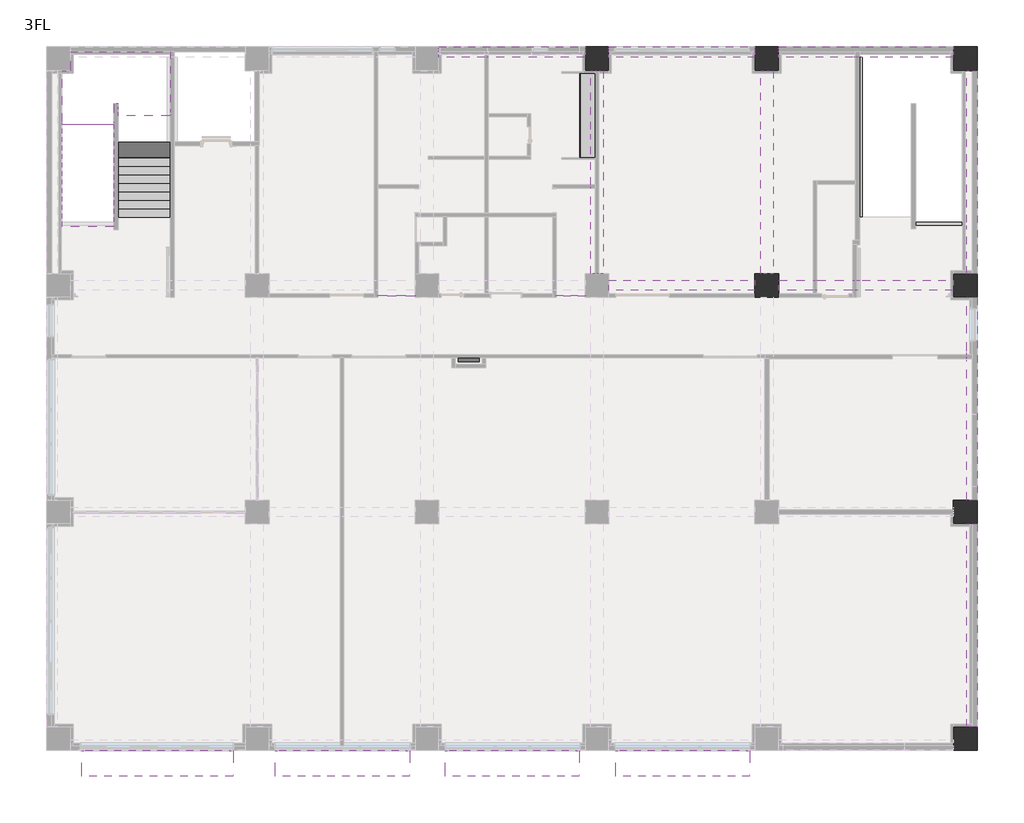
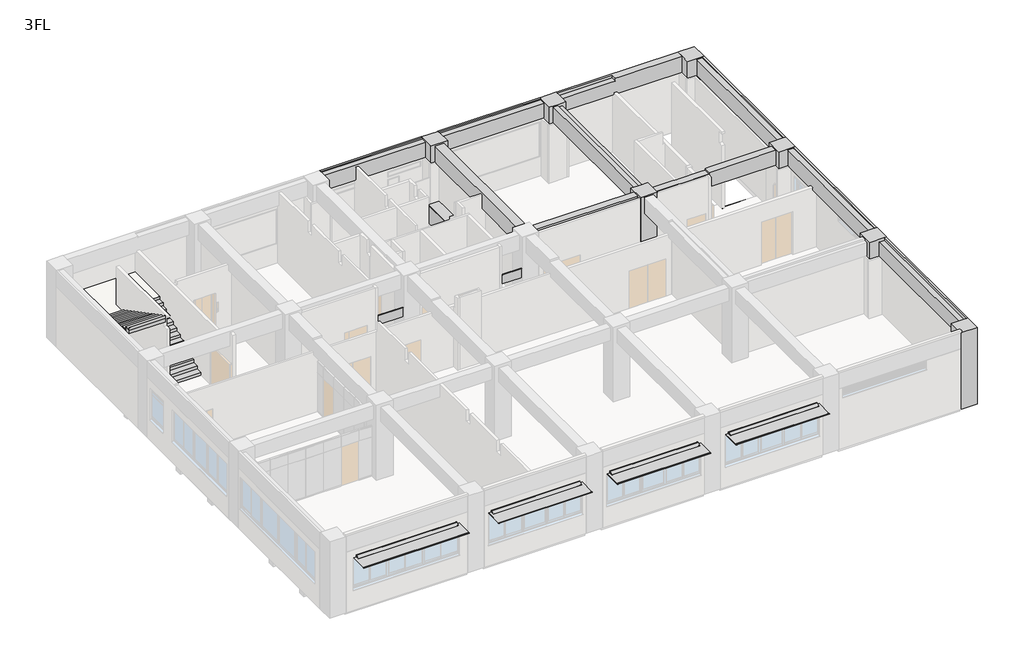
# One storey, part 6 of 6: 15 beams, 7 columns, 7 proxies, 2 stair flights, 1 flow terminal, 1 slab.
"""IFC4 building model written with IfcOpenShell, lengths in millimetres."""

from ifc_helpers import new_model, si_unit, frame, origin, place, context, project, spatial, polyline, outline, extrude, faceted_brep, transform, mapped, element, save
from components import generic_models_889831fe, generic_models_706210b3, specialty_equipment_ac76b24c, generic_models_8fc78ecc, generic_models_3a1368d3, flow_terminal_46fab2b1

model = new_model("IFC4")

# Units and contexts
model_context = context("Model", 3, world=origin())
ifc_project = project(units=[si_unit("LENGTHUNIT", "METRE", prefix="MILLI")], contexts=[model_context])

# Site, building, storey
site = spatial("IfcSite", under=ifc_project)
building = spatial("IfcBuilding", under=site)
storey = spatial("IfcBuildingStorey", under=building, Name="3FL", Elevation=8200.0)

# Beams
placement = place(None, origin())
element("IfcBeam", 1, ObjectType="営_RC梁 : 2-RG2 350*850", at=placement, inside=storey, context=model_context, shape_type="SweptSolid", body=[
    extrude(outline(polyline([(19420.0, 15825.0), (19420.0, 16175.0), (24580.0, 16175.0), (24580.0, 15825.0), (19420.0, 15825.0)])), frame((0.0, 0.0, 11350.0), z_axis=(0.0, 0.0, 1.0), x_axis=(1.0, 0.0, 0.0)), (0.0, 0.0, 1.0), 790.0),
])
element("IfcBeam", 2, ObjectType="営_RC梁 : 2-RG2 350*850", at=placement, inside=storey, context=model_context, shape_type="Brep", body=[
    faceted_brep([(25420.0, 15825.0, 11350.0), (26640.0, 15825.0, 11350.0), (26760.0, 15825.0, 11350.0), (28025.0, 15825.0, 11350.0), (28175.0, 15825.0, 11350.0), (31580.0, 15825.0, 11350.0), (31580.0, 15825.0, 12140.0), (28200.0, 15825.0, 12140.0), (28200.0, 15825.0, 12050.0), (28175.0, 15825.0, 12050.0), (28025.0, 15825.0, 12050.0), (26760.0, 15825.0, 12050.0), (26640.0, 15825.0, 12050.0), (25420.0, 15825.0, 12050.0), (25420.0, 16175.0, 11350.0), (26640.0, 16175.0, 11350.0), (26760.0, 16175.0, 11350.0), (28025.0, 16175.0, 11350.0), (28175.0, 16175.0, 11350.0), (31580.0, 16175.0, 11350.0), (25420.0, 16175.0, 12050.0), (26640.0, 16175.0, 12050.0), (26760.0, 16175.0, 12050.0), (28024.0, 16175.0, 12050.0), (28200.0, 16175.0, 12050.0), (28200.0, 16175.0, 12140.0), (28374.0, 16175.0, 12140.0), (31580.0, 16175.0, 12140.0)], [[[0, 1, 2, 3, 4, 5, 6, 7, 8, 9, 10, 11, 12, 13]], [[0, 14, 15, 16, 17, 18, 19, 5, 4, 3, 2, 1]], [[19, 18, 17, 16, 15, 14, 20, 21, 22, 23, 24, 25, 26, 27]], [[14, 0, 13, 20]], [[5, 19, 27, 6]], [[8, 24, 23, 22, 21, 20, 13, 12, 11, 10, 9]], [[24, 8, 7, 25]], [[7, 6, 27, 26, 25]]]),
])
element("IfcBeam", 3, ObjectType="営_RC梁 : 2-RG1 350*850", at=placement, inside=storey, context=model_context, shape_type="Brep", body=[
    faceted_brep([(13420.0, 24050.0, 11350.0), (15040.0, 24050.0, 11350.0), (15160.0, 24050.0, 11350.0), (18580.0, 24050.0, 11350.0), (18580.0, 24050.0, 12140.0), (13420.0, 24050.0, 12140.0), (13420.0, 24250.0, 11350.0), (13420.0, 24420.0, 11350.0), (18580.0, 24420.0, 11350.0), (18580.0, 24250.0, 11350.0), (13420.0, 24420.0, 12200.0), (18580.0, 24420.0, 12200.0), (13420.0, 24335.0, 12200.0), (18580.0, 24335.0, 12200.0), (13420.0, 24335.0, 12140.0), (18580.0, 24335.0, 12140.0)], [[[0, 1, 2, 3, 4, 5]], [[0, 6, 7, 8, 9, 3, 2, 1]], [[7, 10, 11, 8]], [[11, 10, 12, 13]], [[7, 6, 0, 5, 14, 12, 10]], [[3, 9, 8, 11, 13, 15, 4]], [[15, 14, 5, 4]], [[14, 15, 13, 12]]]),
])
element("IfcBeam", 4, ObjectType="営_RC梁 : 2-RG1 350*850", at=placement, inside=storey, context=model_context, shape_type="Brep", body=[
    faceted_brep([(19420.0, 24050.0, 11350.0), (24580.0, 24050.0, 11350.0), (24580.0, 24050.0, 12140.0), (19420.0, 24050.0, 12140.0), (19420.0, 24250.0, 11350.0), (19420.0, 24420.0, 11350.0), (24580.0, 24420.0, 11350.0), (24580.0, 24250.0, 11350.0), (19420.0, 24420.0, 12200.0), (24580.0, 24420.0, 12200.0), (19420.0, 24335.0, 12200.0), (24580.0, 24335.0, 12200.0), (19420.0, 24335.0, 12140.0), (24580.0, 24335.0, 12140.0)], [[[0, 1, 2, 3]], [[0, 4, 5, 6, 7, 1]], [[5, 8, 9, 6]], [[9, 8, 10, 11]], [[5, 4, 0, 3, 12, 10, 8]], [[1, 7, 6, 9, 11, 13, 2]], [[13, 12, 3, 2]], [[12, 13, 11, 10]]]),
])
element("IfcBeam", 5, ObjectType="営_RC梁 : 2-RG1 350*850", at=placement, inside=storey, context=model_context, shape_type="Brep", body=[
    faceted_brep([(25420.0, 24050.0, 11350.0), (28125.0, 24050.0, 11350.0), (28275.0, 24050.0, 11350.0), (31580.0, 24050.0, 11350.0), (31580.0, 24050.0, 12200.0), (28374.0, 24050.0, 12200.0), (28200.0, 24050.0, 12200.0), (28200.0, 24050.0, 12050.0), (28024.0, 24050.0, 12050.0), (25420.0, 24050.0, 12050.0), (25420.0, 24250.0, 11350.0), (25420.0, 24420.0, 11350.0), (31580.0, 24420.0, 11350.0), (31580.0, 24250.0, 11350.0), (25420.0, 24420.0, 12200.0), (31580.0, 24420.0, 12200.0), (25420.0, 24335.0, 12200.0), (28200.0, 24335.0, 12200.0), (25420.0, 24335.0, 12050.0), (28200.0, 24335.0, 12050.0)], [[[0, 1, 2, 3, 4, 5, 6, 7, 8, 9]], [[0, 10, 11, 12, 13, 3, 2, 1]], [[11, 14, 15, 12]], [[15, 14, 16, 17, 6, 5, 4]], [[11, 10, 0, 9, 18, 16, 14]], [[4, 3, 13, 12, 15]], [[7, 19, 18, 9, 8]], [[19, 17, 16, 18]], [[17, 19, 7, 6]]]),
])
element("IfcBeam", 6, ObjectType="営_RC梁 : 2-4G12 450*900", at=placement, inside=storey, context=model_context, shape_type="Brep", body=[
    faceted_brep([(19225.0, 16420.0, 11300.0), (19225.0, 23580.0, 11300.0), (19225.0, 23580.0, 12140.0), (19225.0, 21515.0, 12140.0), (19225.0, 21165.0, 12140.0), (19225.0, 18845.0, 12140.0), (19225.0, 18495.0, 12140.0), (19225.0, 16420.0, 12140.0), (19060.0, 16420.0, 11300.0), (18940.0, 16420.0, 11300.0), (18775.0, 16420.0, 11300.0), (18775.0, 19430.0, 11300.0), (18775.0, 19550.0, 11300.0), (18775.0, 23580.0, 11300.0), (18940.0, 23580.0, 11300.0), (19060.0, 23580.0, 11300.0), (18775.0, 16420.0, 12140.0), (18775.0, 18495.0, 12140.0), (18775.0, 18845.0, 12140.0), (18775.0, 21165.0, 12140.0), (18775.0, 21515.0, 12140.0), (18775.0, 23580.0, 12140.0)], [[[0, 1, 2, 3, 4, 5, 6, 7]], [[0, 8, 9, 10, 11, 12, 13, 14, 15, 1]], [[13, 12, 11, 10, 16, 17, 18, 19, 20, 21]], [[10, 9, 8, 0, 7, 16]], [[1, 15, 14, 13, 21, 2]], [[7, 6, 5, 4, 3, 2, 21, 20, 19, 18, 17, 16]]]),
])
element("IfcBeam", 7, ObjectType="営_RC梁 : 2-4G12 450*900", at=placement, inside=storey, context=model_context, shape_type="Brep", body=[
    faceted_brep([(25225.0, 16420.0, 11300.0), (25225.0, 23580.0, 11300.0), (25225.0, 23580.0, 12050.0), (25225.0, 16420.0, 12050.0), (24775.0, 16420.0, 11300.0), (24775.0, 23580.0, 11300.0), (24775.0, 16420.0, 12140.0), (24775.0, 18495.0, 12140.0), (24775.0, 18845.0, 12140.0), (24775.0, 21165.0, 12140.0), (24775.0, 21515.0, 12140.0), (24775.0, 23580.0, 12140.0), (25000.0, 16420.0, 12050.0), (25000.0, 16420.0, 12140.0), (25000.0, 23580.0, 12140.0), (25000.0, 23580.0, 12050.0)], [[[0, 1, 2, 3]], [[0, 4, 5, 1]], [[5, 4, 6, 7, 8, 9, 10, 11]], [[4, 0, 3, 12, 13, 6]], [[1, 5, 11, 14, 15, 2]], [[15, 12, 3, 2]], [[12, 15, 14, 13]], [[11, 10, 9, 8, 7, 6, 13, 14]]]),
])
element("IfcBeam", 8, ObjectType="営_RC梁 : 2-RG11 350*900", at=placement, inside=storey, context=model_context, shape_type="Brep", body=[
    faceted_brep([(32420.0, 7580.0, 11300.0), (32420.0, 7580.0, 12200.0), (32420.0, 420.0, 12200.0), (32420.0, 420.0, 11300.0), (32050.0, 7580.0, 11300.0), (32250.0, 7580.0, 11300.0), (32250.0, 420.0, 11300.0), (32050.0, 420.0, 11300.0), (32050.0, 420.0, 12050.0), (32050.0, 2485.0, 12050.0), (32050.0, 2835.0, 12050.0), (32050.0, 5155.0, 12050.0), (32050.0, 5505.0, 12050.0), (32050.0, 7580.0, 12050.0), (32325.0, 7580.0, 12200.0), (32325.0, 420.0, 12200.0), (32325.0, 7580.0, 12050.0), (32325.0, 420.0, 12050.0)], [[[0, 1, 2, 3]], [[4, 5, 0, 3, 6, 7]], [[4, 7, 8, 9, 10, 11, 12, 13]], [[2, 1, 14, 15]], [[1, 0, 5, 4, 13, 16, 14]], [[3, 2, 15, 17, 8, 7, 6]], [[17, 16, 13, 12, 11, 10, 9, 8]], [[16, 17, 15, 14]]]),
])
element("IfcBeam", 9, ObjectType="営_RC梁 : 2-RG11 350*900", at=placement, inside=storey, context=model_context, shape_type="Brep", body=[
    faceted_brep([(32420.0, 8420.0, 12200.0), (32420.0, 8420.0, 11300.0), (32420.0, 15580.0, 11300.0), (32420.0, 15580.0, 12200.0), (32250.0, 8420.0, 11300.0), (32050.0, 8420.0, 11300.0), (32050.0, 13405.0, 11300.0), (32050.0, 13555.0, 11300.0), (32050.0, 15580.0, 11300.0), (32160.0, 15580.0, 11300.0), (32250.0, 15580.0, 11300.0), (32050.0, 8420.0, 12140.0), (32050.0, 10575.0, 12140.0), (32050.0, 10925.0, 12140.0), (32050.0, 13325.0, 12140.0), (32050.0, 13675.0, 12140.0), (32050.0, 15580.0, 12140.0), (32325.0, 15580.0, 12200.0), (32325.0, 8420.0, 12200.0), (32325.0, 8420.0, 12140.0), (32325.0, 15580.0, 12140.0)], [[[0, 1, 2, 3]], [[1, 4, 5, 6, 7, 8, 9, 10, 2]], [[8, 7, 6, 5, 11, 12, 13, 14, 15, 16]], [[0, 3, 17, 18]], [[1, 0, 18, 19, 11, 5, 4]], [[3, 2, 10, 9, 8, 16, 20, 17]], [[19, 20, 16, 15, 14, 13, 12, 11]], [[20, 19, 18, 17]]]),
])
element("IfcBeam", 10, ObjectType="営_RC梁 : 2-RG11 350*900", at=placement, inside=storey, context=model_context, shape_type="Brep", body=[
    faceted_brep([(32420.0, 16420.0, 12200.0), (32420.0, 16420.0, 11300.0), (32420.0, 23580.0, 11300.0), (32420.0, 23580.0, 12200.0), (32250.0, 16420.0, 11300.0), (32050.0, 16420.0, 11300.0), (32050.0, 23580.0, 11300.0), (32250.0, 23580.0, 11300.0), (32050.0, 16420.0, 12140.0), (32050.0, 17975.0, 12140.0), (32050.0, 18225.0, 12140.0), (32050.0, 23580.0, 12140.0), (32325.0, 23580.0, 12200.0), (32325.0, 16669.8819845, 12200.0), (32325.0, 16420.0, 12200.0), (32325.0, 16420.0, 12140.0), (32325.0, 23580.0, 12140.0), (32325.0, 16669.8819845, 12140.0)], [[[0, 1, 2, 3]], [[1, 4, 5, 6, 7, 2]], [[6, 5, 8, 9, 10, 11]], [[0, 3, 12, 13, 14]], [[1, 0, 14, 15, 8, 5, 4]], [[3, 2, 7, 6, 11, 16, 12]], [[17, 16, 11, 10, 9, 8, 15]], [[17, 15, 14, 13]], [[16, 17, 13, 12]]]),
])
element("IfcBeam", 11, ObjectType="営_RC梁 : B4 350*750", at=placement, inside=storey, context=model_context, shape_type="Brep", body=[
    faceted_brep([(28374.0, 16175.0, 7350.0), (28374.0, 24050.0, 7350.0), (28374.0, 24050.0, 8100.0), (28374.0, 18400.0, 8100.0), (28374.0, 18400.0, 8040.0), (28374.0, 18225.0, 8040.0), (28374.0, 17975.0, 8040.0), (28374.0, 16175.0, 8040.0), (28175.0, 16175.0, 7350.0), (28025.0, 16175.0, 7350.0), (28024.0, 16175.0, 7350.0), (28024.0, 19575.0, 7350.0), (28024.0, 19695.0, 7350.0), (28024.0, 24050.0, 7350.0), (28024.0, 16175.0, 7950.0), (28024.0, 19575.0, 7950.0), (28024.0, 19695.0, 7950.0), (28024.0, 24050.0, 7950.0), (28200.0, 24050.0, 8100.0), (28200.0, 18400.0, 8100.0), (28200.0, 16175.0, 8040.0), (28200.0, 16175.0, 7950.0), (28200.0, 24050.0, 7950.0), (28200.0, 18400.0, 8040.0)], [[[0, 1, 2, 3, 4, 5, 6, 7]], [[0, 8, 9, 10, 11, 12, 13, 1]], [[13, 12, 11, 10, 14, 15, 16, 17]], [[3, 2, 18, 19]], [[10, 9, 8, 0, 7, 20, 21, 14]], [[2, 1, 13, 17, 22, 18]], [[4, 23, 20, 7, 6, 5]], [[23, 4, 3, 19]], [[21, 22, 17, 16, 15, 14]], [[22, 21, 20, 23, 19, 18]]]),
])
element("IfcBeam", 12, ObjectType="営_RC梁 : B3 250*600", at=placement, inside=storey, context=model_context, shape_type="Brep", body=[
    faceted_brep([(28374.0, 17975.0, 7500.0), (32050.0, 17975.0, 7500.0), (32050.0, 17975.0, 8040.0), (28374.0, 17975.0, 8040.0), (28374.0, 18225.0, 7500.0), (30105.0, 18225.0, 7500.0), (30255.0, 18225.0, 7500.0), (32050.0, 18225.0, 7500.0), (28374.0, 18225.0, 8040.0), (30105.0, 18225.0, 8040.0), (30105.0, 18225.0, 8100.0), (30255.0, 18225.0, 8100.0), (31900.0, 18225.0, 8100.0), (31900.0, 18225.0, 8040.0), (32050.0, 18225.0, 8040.0), (30105.0, 18005.0, 8100.0), (30255.0, 18005.0, 8100.0), (30255.0, 18100.0, 8100.0), (31900.0, 18100.0, 8100.0), (30255.0, 18005.0, 8040.0), (30105.0, 18005.0, 8040.0), (31900.0, 18100.0, 8040.0), (30255.0, 18100.0, 8040.0)], [[[0, 1, 2, 3]], [[0, 4, 5, 6, 7, 1]], [[7, 6, 5, 4, 8, 9, 10, 11, 12, 13, 14]], [[12, 11, 10, 15, 16, 17, 18]], [[4, 0, 3, 8]], [[1, 7, 14, 2]], [[19, 20, 9, 8, 3, 2, 14, 13, 21, 22]], [[9, 20, 15, 10]], [[20, 19, 16, 15]], [[19, 22, 17, 16]], [[22, 21, 18, 17]], [[21, 13, 12, 18]]]),
])
element("IfcBeam", 13, ObjectType="営_RC梁 : B1 350*750", at=placement, inside=storey, context=model_context, shape_type="Brep", body=[
    faceted_brep([(19225.0, 18495.0, 7350.0), (21940.0, 18495.0, 7350.0), (22060.0, 18495.0, 7350.0), (24775.0, 18495.0, 7350.0), (24775.0, 18495.0, 7950.0), (19225.0, 18495.0, 7950.0), (19225.0, 18845.0, 7350.0), (21940.0, 18845.0, 7350.0), (22060.0, 18845.0, 7350.0), (24775.0, 18845.0, 7350.0), (19225.0, 18845.0, 7950.0), (24775.0, 18845.0, 7950.0)], [[[0, 1, 2, 3, 4, 5]], [[0, 6, 7, 8, 9, 3, 2, 1]], [[9, 8, 7, 6, 10, 11]], [[6, 0, 5, 10]], [[3, 9, 11, 4]], [[5, 4, 11, 10]]]),
])
element("IfcBeam", 14, ObjectType="営_RC梁 : B1 350*750", at=placement, inside=storey, context=model_context, shape_type="Brep", body=[
    faceted_brep([(19225.0, 21165.0, 7350.0), (21940.0, 21165.0, 7350.0), (22060.0, 21165.0, 7350.0), (24775.0, 21165.0, 7350.0), (24775.0, 21165.0, 7950.0), (19225.0, 21165.0, 7950.0), (19225.0, 21515.0, 7350.0), (21940.0, 21515.0, 7350.0), (22060.0, 21515.0, 7350.0), (24775.0, 21515.0, 7350.0), (19225.0, 21515.0, 7950.0), (24775.0, 21515.0, 7950.0)], [[[0, 1, 2, 3, 4, 5]], [[0, 6, 7, 8, 9, 3, 2, 1]], [[9, 8, 7, 6, 10, 11]], [[6, 0, 5, 10]], [[3, 9, 11, 4]], [[5, 4, 11, 10]]]),
])
element("IfcBeam", 15, ObjectType="営_RC梁 : B1 350*750", at=placement, inside=storey, context=model_context, shape_type="Brep", body=[
    faceted_brep([(13225.0, 21165.0, 7350.0), (15040.0, 21165.0, 7350.0), (15160.0, 21165.0, 7350.0), (16540.0, 21165.0, 7350.0), (16660.0, 21165.0, 7350.0), (18775.0, 21165.0, 7350.0), (18775.0, 21165.0, 8040.0), (13225.0, 21165.0, 8040.0), (13225.0, 21515.0, 7350.0), (15040.0, 21515.0, 7350.0), (15160.0, 21515.0, 7350.0), (16540.0, 21515.0, 7350.0), (16660.0, 21515.0, 7350.0), (18775.0, 21515.0, 7350.0), (13225.0, 21515.0, 8040.0), (18775.0, 21515.0, 8040.0)], [[[0, 1, 2, 3, 4, 5, 6, 7]], [[0, 8, 9, 10, 11, 12, 13, 5, 4, 3, 2, 1]], [[13, 12, 11, 10, 9, 8, 14, 15]], [[8, 0, 7, 14]], [[5, 13, 15, 6]], [[7, 6, 15, 14]]]),
])

# Proxies
generic_models_shape = generic_models_889831fe(model_context)
element("IfcBuildingElementProxy", 16, Name="営_付庇_窓 : 付庇", ObjectType="営_付庇_窓 : 付庇", at=placement, inside=storey, context=model_context, shape_type="MappedRepresentation", body=[
    mapped(generic_models_shape, transform((3476.2951348, -420.0, 8200.0), x_axis=(1.0, 0.0, 0.0), y_axis=(0.0, 1.0, 0.0), z_axis=(0.0, 0.0, 1.0))),
])
generic_models_2_shape = generic_models_706210b3(model_context)
element("IfcBuildingElementProxy", 17, Name="営_付庇_窓 : 付庇", ObjectType="営_付庇_窓 : 付庇", at=placement, inside=storey, context=model_context, shape_type="MappedRepresentation", body=[
    mapped(generic_models_2_shape, transform((10011.2951348, -420.0, 8200.0), x_axis=(1.0, 0.0, 0.0), y_axis=(0.0, 1.0, 0.0), z_axis=(0.0, 0.0, 1.0))),
])
element("IfcBuildingElementProxy", 18, Name="営_付庇_窓 : 付庇", ObjectType="営_付庇_窓 : 付庇", at=placement, inside=storey, context=model_context, shape_type="MappedRepresentation", body=[
    mapped(generic_models_2_shape, transform((16011.2951348, -420.0, 8200.0), x_axis=(1.0, 0.0, 0.0), y_axis=(0.0, 1.0, 0.0), z_axis=(0.0, 0.0, 1.0))),
])
element("IfcBuildingElementProxy", 19, Name="営_付庇_窓 : 付庇", ObjectType="営_付庇_窓 : 付庇", at=placement, inside=storey, context=model_context, shape_type="MappedRepresentation", body=[
    mapped(generic_models_2_shape, transform((22031.2951348, -420.0, 8200.0), x_axis=(1.0, 0.0, 0.0), y_axis=(0.0, 1.0, 0.0), z_axis=(0.0, 0.0, 1.0))),
])
specialty_equipment_shape = specialty_equipment_ac76b24c(model_context)
element("IfcBuildingElementProxy", 20, Name="営_屋内消火栓 : 屋内消火栓", ObjectType="営_屋内消火栓 : 屋内消火栓", at=placement, inside=storey, context=model_context, shape_type="MappedRepresentation", body=[
    mapped(specialty_equipment_shape, transform((14470.0, 13550.0, 8200.0), x_axis=(1.0, 0.0, 0.0), y_axis=(0.0, 1.0, 0.0), z_axis=(0.0, 0.0, 1.0))),
])
generic_models_3_shape = generic_models_8fc78ecc(model_context)
element("IfcBuildingElementProxy", 21, Name="防煙垂壁 : 可動防煙垂壁", ObjectType="防煙垂壁 : 可動防煙垂壁", at=placement, inside=storey, context=model_context, shape_type="MappedRepresentation", body=[
    mapped(generic_models_3_shape, transform((12580.0, 15630.0, 8200.0), x_axis=(-1.0, 0.0, 0.0), y_axis=(0.0, -1.0, 0.0), z_axis=(0.0, 0.0, 1.0))),
])
generic_models_4_shape = generic_models_3a1368d3(model_context)
element("IfcBuildingElementProxy", 22, Name="防煙垂壁 : 可動防煙垂壁", ObjectType="防煙垂壁 : 可動防煙垂壁", at=placement, inside=storey, context=model_context, shape_type="MappedRepresentation", body=[
    mapped(generic_models_4_shape, transform((18580.0, 15630.0, 8200.0), x_axis=(-1.0, 0.0, 0.0), y_axis=(0.0, -1.0, 0.0), z_axis=(0.0, 0.0, 1.0))),
])

# Columns
element("IfcColumn", 23, ObjectType="営_RC柱_角 : 800*800", at=placement, inside=storey, context=model_context, shape_type="Brep", body=[
    faceted_brep([(32420.0, 420.0, 8100.0), (32420.0, -420.0, 8100.0), (31580.0, -420.0, 8100.0), (31580.0, -250.0, 8100.0), (31580.0, 420.0, 8100.0), (32250.0, 420.0, 8100.0), (32420.0, 420.0, 12200.0), (32420.0, 370.0, 12200.0), (32420.0, -420.0, 12200.0), (32420.0, 420.0, 11300.0), (31630.0, -420.0, 12200.0), (31580.0, -420.0, 12200.0), (31580.0, -420.0, 11350.0), (31580.0, -325.0, 12200.0), (31580.0, 420.0, 12200.0), (31580.0, 420.0, 12050.0), (31580.0, 420.0, 8190.0), (31580.0, 420.0, 8180.0), (32325.0, 420.0, 12200.0)], [[[0, 1, 2, 3, 4, 5]], [[6, 7, 8, 1, 0, 9]], [[8, 10, 11, 12, 2, 1]], [[11, 13, 14, 15, 16, 17, 4, 3, 2, 12]], [[14, 18, 6, 9, 0, 5, 4, 17, 16, 15]], [[6, 18, 14, 13, 11, 10, 8, 7]]]),
])
element("IfcColumn", 24, ObjectType="営_RC柱_角 : 800*800", at=placement, inside=storey, context=model_context, shape_type="Brep", body=[
    faceted_brep([(32420.0, 8420.0, 8100.0), (32420.0, 7580.0, 8100.0), (32250.0, 7580.0, 8100.0), (31580.0, 7580.0, 8100.0), (31580.0, 8420.0, 8100.0), (32250.0, 8420.0, 8100.0), (32325.0, 8420.0, 8100.0), (32420.0, 8420.0, 12200.0), (32420.0, 8395.0, 12200.0), (32420.0, 7605.0, 12200.0), (32420.0, 7580.0, 12200.0), (32420.0, 7580.0, 11300.0), (32420.0, 8420.0, 11300.0), (32325.0, 7580.0, 12200.0), (31580.0, 7580.0, 12200.0), (31580.0, 7580.0, 12050.0), (31580.0, 7580.0, 8190.0), (31580.0, 7580.0, 8180.0), (31580.0, 8000.0, 12200.0), (31580.0, 8420.0, 12200.0), (31580.0, 8420.0, 12140.0), (31580.0, 8420.0, 8190.0), (32325.0, 8420.0, 12200.0)], [[[0, 1, 2, 3, 4, 5, 6]], [[7, 8, 9, 10, 11, 1, 0, 12]], [[10, 13, 14, 15, 16, 17, 3, 2, 1, 11]], [[14, 18, 19, 20, 21, 4, 3, 17, 16, 15]], [[19, 22, 7, 12, 0, 6, 5, 4, 21, 20]], [[7, 22, 19, 18, 14, 13, 10, 9, 8]]]),
])
element("IfcColumn", 25, ObjectType="営_RC柱_角 : 800*800", at=placement, inside=storey, context=model_context, shape_type="Brep", body=[
    faceted_brep([(25420.0, 16420.0, 8100.0), (25420.0, 15580.0, 8100.0), (24580.0, 15580.0, 8100.0), (24580.0, 16420.0, 8100.0), (25420.0, 16420.0, 12200.0), (25420.0, 15665.0, 12200.0), (25420.0, 15580.0, 12200.0), (25420.0, 15580.0, 12140.0), (25420.0, 15580.0, 8200.0), (25420.0, 15580.0, 8190.0), (25420.0, 16420.0, 8180.0), (25420.0, 16420.0, 8190.0), (25420.0, 16420.0, 12050.0), (24580.0, 15580.0, 12200.0), (24580.0, 15580.0, 12140.0), (24580.0, 15580.0, 8200.0), (24580.0, 15580.0, 8190.0), (24580.0, 16420.0, 12200.0), (24580.0, 16420.0, 12140.0), (24580.0, 16420.0, 8190.0), (24580.0, 16420.0, 8180.0), (25000.0, 16420.0, 12200.0)], [[[0, 1, 2, 3]], [[4, 5, 6, 7, 8, 9, 1, 0, 10, 11, 12]], [[6, 13, 14, 15, 16, 2, 1, 9, 8, 7]], [[13, 17, 18, 19, 20, 3, 2, 16, 15, 14]], [[17, 21, 4, 12, 11, 10, 0, 3, 20, 19, 18]], [[4, 21, 17, 13, 6, 5]]]),
])
element("IfcColumn", 26, ObjectType="営_RC柱_角 : 800*800", at=placement, inside=storey, context=model_context, shape_type="Brep", body=[
    faceted_brep([(32420.0, 16420.0, 8100.0), (32420.0, 15580.0, 8100.0), (32325.0, 15580.0, 8100.0), (32250.0, 15580.0, 8100.0), (31580.0, 15580.0, 8100.0), (31580.0, 16420.0, 8100.0), (32250.0, 16420.0, 8100.0), (32325.0, 16420.0, 8100.0), (32420.0, 16420.0, 12200.0), (32420.0, 16395.0, 12200.0), (32420.0, 15605.0, 12200.0), (32420.0, 15580.0, 12200.0), (32420.0, 15580.0, 11300.0), (32420.0, 16420.0, 11300.0), (32325.0, 15580.0, 12200.0), (31580.0, 15580.0, 12200.0), (31580.0, 15580.0, 12140.0), (31580.0, 15580.0, 8190.0), (31580.0, 16420.0, 12200.0), (31580.0, 16420.0, 12140.0), (31580.0, 16420.0, 8190.0), (32325.0, 16420.0, 12200.0)], [[[0, 1, 2, 3, 4, 5, 6, 7]], [[8, 9, 10, 11, 12, 1, 0, 13]], [[11, 14, 15, 16, 17, 4, 3, 2, 1, 12]], [[15, 18, 19, 20, 5, 4, 17, 16]], [[18, 21, 8, 13, 0, 7, 6, 5, 20, 19]], [[8, 21, 18, 15, 14, 11, 10, 9]]]),
])
element("IfcColumn", 27, ObjectType="営_RC柱_角 : 800*800", at=placement, inside=storey, context=model_context, shape_type="Brep", body=[
    faceted_brep([(19420.0, 24420.0, 8100.0), (19420.0, 24250.0, 8100.0), (19420.0, 23580.0, 8100.0), (18580.0, 23580.0, 8100.0), (18580.0, 24250.0, 8100.0), (18580.0, 24420.0, 8100.0), (19420.0, 24420.0, 12200.0), (19420.0, 24335.0, 12200.0), (19420.0, 23580.0, 12200.0), (19420.0, 23580.0, 12140.0), (19420.0, 23580.0, 8190.0), (19420.0, 23580.0, 8180.0), (19420.0, 24420.0, 11350.0), (18580.0, 23580.0, 12200.0), (18580.0, 23580.0, 12140.0), (18580.0, 23580.0, 8190.0), (18580.0, 24335.0, 12200.0), (18580.0, 24420.0, 12200.0), (18580.0, 24420.0, 11350.0), (18605.0, 24420.0, 12200.0), (19395.0, 24420.0, 12200.0)], [[[0, 1, 2, 3, 4, 5]], [[6, 7, 8, 9, 10, 11, 2, 1, 0, 12]], [[8, 13, 14, 15, 3, 2, 11, 10, 9]], [[13, 16, 17, 18, 5, 4, 3, 15, 14]], [[17, 19, 20, 6, 12, 0, 5, 18]], [[6, 20, 19, 17, 16, 13, 8, 7]]]),
])
element("IfcColumn", 28, ObjectType="営_RC柱_角 : 800*800", at=placement, inside=storey, context=model_context, shape_type="Brep", body=[
    faceted_brep([(25420.0, 24420.0, 8100.0), (25420.0, 24250.0, 8100.0), (25420.0, 23580.0, 8100.0), (24580.0, 23580.0, 8100.0), (24580.0, 24250.0, 8100.0), (24580.0, 24420.0, 8100.0), (25420.0, 24420.0, 12200.0), (25420.0, 24335.0, 12200.0), (25420.0, 23580.0, 12200.0), (25420.0, 23580.0, 12050.0), (25420.0, 23580.0, 8190.0), (25420.0, 23580.0, 8180.0), (25420.0, 24420.0, 11350.0), (25000.0, 23580.0, 12200.0), (24580.0, 23580.0, 12200.0), (24580.0, 23580.0, 12140.0), (24580.0, 23580.0, 8190.0), (24580.0, 23580.0, 8180.0), (24580.0, 24335.0, 12200.0), (24580.0, 24420.0, 12200.0), (24580.0, 24420.0, 11350.0), (24605.0, 24420.0, 12200.0), (25395.0, 24420.0, 12200.0)], [[[0, 1, 2, 3, 4, 5]], [[6, 7, 8, 9, 10, 11, 2, 1, 0, 12]], [[8, 13, 14, 15, 16, 17, 3, 2, 11, 10, 9]], [[14, 18, 19, 20, 5, 4, 3, 17, 16, 15]], [[19, 21, 22, 6, 12, 0, 5, 20]], [[6, 22, 21, 19, 18, 14, 13, 8, 7]]]),
])
element("IfcColumn", 29, ObjectType="営_RC柱_角 : 800*800", at=placement, inside=storey, context=model_context, shape_type="Brep", body=[
    faceted_brep([(32420.0, 24420.0, 8100.0), (32420.0, 23580.0, 8100.0), (32250.0, 23580.0, 8100.0), (31580.0, 23580.0, 8100.0), (31580.0, 24250.0, 8100.0), (31580.0, 24420.0, 8100.0), (32420.0, 24420.0, 12200.0), (32420.0, 23630.0, 12200.0), (32420.0, 23580.0, 12200.0), (32420.0, 23580.0, 11300.0), (32325.0, 23580.0, 12200.0), (31580.0, 23580.0, 12200.0), (31580.0, 24050.0, 12200.0), (31580.0, 24420.0, 12200.0), (31580.0, 24420.0, 11350.0), (31630.0, 24420.0, 12200.0)], [[[0, 1, 2, 3, 4, 5]], [[6, 7, 8, 9, 1, 0]], [[8, 10, 11, 3, 2, 1, 9]], [[11, 12, 13, 14, 5, 4, 3]], [[13, 15, 6, 0, 5, 14]], [[6, 15, 13, 12, 11, 10, 8, 7]]]),
])

# Flow terminal
flow_terminal_shape = flow_terminal_46fab2b1(model_context)
element("IfcFlowTerminal", 30, ObjectType="ライニング : ライニング", at=placement, inside=storey, context=model_context, shape_type="MappedRepresentation", body=[
    mapped(flow_terminal_shape, transform((19000.0, 21870.0, 8200.0), x_axis=(0.0, 1.0, 0.0), y_axis=(-1.0, 0.0, 0.0), z_axis=(0.0, 0.0, 1.0))),
])

# Slab
element("IfcSlab", 31, ObjectType="200+20", at=placement, inside=storey, context=model_context, shape_type="Brep", body=[
    faceted_brep([(115.0, 21700.0, 10230.0), (115.0, 21680.0, 10230.0), (1945.0, 21680.0, 10230.0), (1945.0, 21700.0, 10230.0), (1945.0, 21776.1491315, 10230.0), (1945.0, 22410.0, 10230.0), (2095.0, 22410.0, 10230.0), (2095.0, 22223.8508685, 10230.0), (2095.0, 22020.0, 10230.0), (3925.0, 22020.0, 10230.0), (3925.0, 22223.8508685, 10230.0), (3925.0, 24250.0, 10230.0), (420.0, 24250.0, 10230.0), (420.0, 23580.0, 10230.0), (115.0, 23580.0, 10230.0), (115.0, 21776.1491315, 10230.0), (2095.0, 22020.0, 10072.3076923), (2095.0, 22020.0, 9902.8476204), (3925.0, 22020.0, 9902.8476204), (3925.0, 22020.0, 10072.3076923), (3925.0, 22223.8508685, 10010.0), (3925.0, 24250.0, 10010.0), (420.0, 24250.0, 10010.0), (115.0, 21700.0, 10050.0271076), (115.0, 23580.0, 10010.0), (115.0, 21776.1491315, 10010.0), (115.0, 21680.0, 10060.5399281), (1945.0, 21680.0, 10060.5399281), (1945.0, 21700.0, 10050.0271076), (1945.0, 21776.1491315, 10010.0), (1945.0, 22410.0, 10010.0), (2095.0, 22223.8508685, 10010.0), (2095.0, 22410.0, 10010.0), (420.0, 23580.0, 10010.0)], [[[0, 1, 2, 3, 4, 5, 6, 7, 8, 9, 10, 11, 12, 13, 14, 15]], [[9, 8, 16, 17, 18, 19]], [[9, 19, 18, 20, 21, 11, 10]], [[12, 11, 21, 22]], [[23, 0, 15, 14, 24, 25]], [[2, 1, 26, 27]], [[3, 28, 29, 30, 5, 4]], [[20, 31, 32, 30, 29, 25, 24, 33, 22, 21]], [[31, 20, 18, 17]], [[25, 29, 28, 27, 26, 23]], [[6, 5, 30, 32]], [[6, 32, 31, 17, 16, 8, 7]], [[13, 12, 22, 33]], [[14, 13, 33, 24]], [[1, 0, 23, 26]], [[3, 2, 27, 28]]]),
    faceted_brep([(115.0, 21700.0, 10250.0), (1945.0, 21700.0, 10250.0), (1945.0, 22410.0, 10250.0), (2095.0, 22410.0, 10250.0), (2095.0, 22000.0, 10250.0), (3925.0, 22000.0, 10250.0), (3925.0, 24250.0, 10250.0), (420.0, 24250.0, 10250.0), (420.0, 23580.0, 10250.0), (115.0, 23580.0, 10250.0), (115.0, 21700.0, 10230.0), (115.0, 23580.0, 10230.0), (420.0, 23580.0, 10230.0), (420.0, 24250.0, 10230.0), (3925.0, 24250.0, 10230.0), (3925.0, 22020.0, 10230.0), (3925.0, 22000.0, 10230.0), (2095.0, 22000.0, 10230.0), (2095.0, 22020.0, 10230.0), (2095.0, 22410.0, 10230.0), (1945.0, 22410.0, 10230.0), (1945.0, 21700.0, 10230.0)], [[[0, 1, 2, 3, 4, 5, 6, 7, 8, 9]], [[10, 11, 12, 13, 14, 15, 16, 17, 18, 19, 20, 21]], [[1, 0, 10, 21]], [[2, 1, 21, 20]], [[3, 2, 20, 19]], [[4, 3, 19, 18, 17]], [[5, 4, 17, 16]], [[6, 5, 16, 15, 14]], [[7, 6, 14, 13]], [[8, 7, 13, 12]], [[9, 8, 12, 11]], [[0, 9, 11, 10]]]),
])

# Stair flights
element("IfcStairFlight", 32, ObjectType="150+20", at=placement, inside=storey, context=model_context, shape_type="SolidModel", body=[
    faceted_brep([(2095.0, 18720.0, 8337.6923077), (2095.0, 18420.0, 8337.6923077), (3925.0, 18420.0, 8337.6923077), (3925.0, 18720.0, 8337.6923077), (2095.0, 18720.0, 8200.0), (2095.0, 18420.0, 8200.0), (3925.0, 18420.0, 8200.0), (3925.0, 18720.0, 8200.0), (2095.0, 19020.0, 8495.3846154), (2095.0, 18720.0, 8495.3846154), (3925.0, 18720.0, 8495.3846154), (3925.0, 19020.0, 8495.3846154), (2095.0, 19020.0, 8325.9245435), (2095.0, 18780.4362344, 8200.0), (3925.0, 18780.4362344, 8200.0), (3925.0, 19020.0, 8325.9245435), (2095.0, 19320.0, 8653.0769231), (2095.0, 19020.0, 8653.0769231), (3925.0, 19020.0, 8653.0769231), (3925.0, 19320.0, 8653.0769231), (2095.0, 19320.0, 8483.6168512), (3925.0, 19320.0, 8483.6168512), (2095.0, 19620.0, 8810.7692308), (2095.0, 19320.0, 8810.7692308), (3925.0, 19320.0, 8810.7692308), (3925.0, 19620.0, 8810.7692308), (2095.0, 19620.0, 8641.3091588), (3925.0, 19620.0, 8641.3091588), (2095.0, 19920.0, 8968.4615385), (2095.0, 19620.0, 8968.4615385), (3925.0, 19620.0, 8968.4615385), (3925.0, 19920.0, 8968.4615385), (2095.0, 19920.0, 8799.0014665), (3925.0, 19920.0, 8799.0014665), (2095.0, 20220.0, 9126.1538462), (2095.0, 19920.0, 9126.1538462), (3925.0, 19920.0, 9126.1538462), (3925.0, 20220.0, 9126.1538462), (2095.0, 20220.0, 8956.6937742), (3925.0, 20220.0, 8956.6937742), (2095.0, 20520.0, 9283.8461538), (2095.0, 20220.0, 9283.8461538), (3925.0, 20220.0, 9283.8461538), (3925.0, 20520.0, 9283.8461538), (2095.0, 20520.0, 9114.3860819), (3925.0, 20520.0, 9114.3860819), (2095.0, 20820.0, 9441.5384615), (2095.0, 20520.0, 9441.5384615), (3925.0, 20520.0, 9441.5384615), (3925.0, 20820.0, 9441.5384615), (2095.0, 20820.0, 9272.0783896), (3925.0, 20820.0, 9272.0783896), (2095.0, 21120.0, 9599.2307692), (2095.0, 20820.0, 9599.2307692), (3925.0, 20820.0, 9599.2307692), (3925.0, 21120.0, 9599.2307692), (2095.0, 21120.0, 9429.7706973), (3925.0, 21120.0, 9429.7706973), (2095.0, 21420.0, 9756.9230769), (2095.0, 21120.0, 9756.9230769), (3925.0, 21120.0, 9756.9230769), (3925.0, 21420.0, 9756.9230769), (2095.0, 21420.0, 9587.463005), (3925.0, 21420.0, 9587.463005), (2095.0, 21720.0, 9914.6153846), (2095.0, 21420.0, 9914.6153846), (3925.0, 21420.0, 9914.6153846), (3925.0, 21720.0, 9914.6153846), (2095.0, 21720.0, 9745.1553127), (3925.0, 21720.0, 9745.1553127), (2095.0, 21720.0, 10072.3076923), (3925.0, 21720.0, 10072.3076923), (3925.0, 22000.0, 10072.3076923), (3925.0, 22020.0, 10072.3076923), (2095.0, 22020.0, 10072.3076923), (2095.0, 22000.0, 10072.3076923), (2095.0, 22020.0, 9902.8476204), (2095.0, 22000.0, 9892.3347999), (3925.0, 22000.0, 9892.3347999), (3925.0, 22020.0, 9902.8476204)], [[[0, 1, 2, 3]], [[1, 0, 4, 5]], [[2, 1, 5, 6]], [[3, 2, 6, 7]], [[8, 9, 10, 11]], [[4, 0, 9, 8, 12, 13]], [[0, 3, 10, 9]], [[3, 7, 14, 15, 11, 10]], [[16, 17, 18, 19]], [[17, 16, 20, 12, 8]], [[8, 11, 18, 17]], [[19, 18, 11, 15, 21]], [[22, 23, 24, 25]], [[23, 22, 26, 20, 16]], [[16, 19, 24, 23]], [[25, 24, 19, 21, 27]], [[28, 29, 30, 31]], [[29, 28, 32, 26, 22]], [[22, 25, 30, 29]], [[31, 30, 25, 27, 33]], [[34, 35, 36, 37]], [[35, 34, 38, 32, 28]], [[28, 31, 36, 35]], [[37, 36, 31, 33, 39]], [[40, 41, 42, 43]], [[41, 40, 44, 38, 34]], [[34, 37, 42, 41]], [[43, 42, 37, 39, 45]], [[46, 47, 48, 49]], [[47, 46, 50, 44, 40]], [[40, 43, 48, 47]], [[49, 48, 43, 45, 51]], [[52, 53, 54, 55]], [[53, 52, 56, 50, 46]], [[46, 49, 54, 53]], [[55, 54, 49, 51, 57]], [[58, 59, 60, 61]], [[59, 58, 62, 56, 52]], [[52, 55, 60, 59]], [[61, 60, 55, 57, 63]], [[64, 65, 66, 67]], [[65, 64, 68, 62, 58]], [[58, 61, 66, 65]], [[67, 66, 61, 63, 69]], [[70, 71, 72, 73, 74, 75]], [[64, 70, 75, 74, 76, 77, 68]], [[64, 67, 71, 70]], [[71, 67, 69, 78, 79, 73, 72]], [[74, 73, 79, 76]], [[5, 4, 13, 14, 7, 6]], [[14, 13, 12, 20, 26, 32, 38, 44, 50, 56, 62, 68, 77, 76, 79, 78, 69, 63, 57, 51, 45, 39, 33, 27, 21, 15]]]),
    extrude(outline(polyline([(18420.0, 8337.6923077), (18420.0, 8200.0), (18400.0, 8200.0), (18400.0, 8357.6923077), (18700.0, 8357.6923077), (18700.0, 8515.3846154), (19000.0, 8515.3846154), (19000.0, 8673.0769231), (19300.0, 8673.0769231), (19300.0, 8830.7692308), (19600.0, 8830.7692308), (19600.0, 8988.4615385), (19900.0, 8988.4615385), (19900.0, 9146.1538462), (20200.0, 9146.1538462), (20200.0, 9303.8461538), (20500.0, 9303.8461538), (20500.0, 9461.5384615), (20800.0, 9461.5384615), (20800.0, 9619.2307692), (21100.0, 9619.2307692), (21100.0, 9776.9230769), (21400.0, 9776.9230769), (21400.0, 9934.6153846), (21700.0, 9934.6153846), (21700.0, 10092.3076923), (22000.0, 10092.3076923), (22000.0, 10230.0), (22020.0, 10230.0), (22020.0, 10072.3076923), (21720.0, 10072.3076923), (21720.0, 9914.6153846), (21420.0, 9914.6153846), (21420.0, 9756.9230769), (21120.0, 9756.9230769), (21120.0, 9599.2307692), (20820.0, 9599.2307692), (20820.0, 9441.5384615), (20520.0, 9441.5384615), (20520.0, 9283.8461538), (20220.0, 9283.8461538), (20220.0, 9126.1538462), (19920.0, 9126.1538462), (19920.0, 8968.4615385), (19620.0, 8968.4615385), (19620.0, 8810.7692308), (19320.0, 8810.7692308), (19320.0, 8653.0769231), (19020.0, 8653.0769231), (19020.0, 8495.3846154), (18720.0, 8495.3846154), (18720.0, 8337.6923077), (18420.0, 8337.6923077)])), frame((2095.0, 0.0, 0.0), z_axis=(1.0, 0.0, 0.0), x_axis=(0.0, 1.0, 0.0)), (0.0, 0.0, 1.0), 1830.0),
])
element("IfcStairFlight", 33, ObjectType="150+20", at=placement, inside=storey, context=model_context, shape_type="Brep", body=[
    faceted_brep([(1945.0, 21380.0, 10387.6923077), (1945.0, 21680.0, 10387.6923077), (115.0, 21680.0, 10387.6923077), (115.0, 21380.0, 10387.6923077), (1945.0, 21380.0, 10218.2322358), (1945.0, 21680.0, 10060.5399281), (1945.0, 21680.0, 10230.0), (115.0, 21680.0, 10060.5399281), (115.0, 21680.0, 10230.0), (115.0, 21380.0, 10218.2322358), (1945.0, 21080.0, 10545.3846154), (1945.0, 21380.0, 10545.3846154), (115.0, 21380.0, 10545.3846154), (115.0, 21080.0, 10545.3846154), (1945.0, 21080.0, 10375.9245435), (115.0, 21080.0, 10375.9245435), (1945.0, 20780.0, 10703.0769231), (1945.0, 21080.0, 10703.0769231), (115.0, 21080.0, 10703.0769231), (115.0, 20780.0, 10703.0769231), (1945.0, 20780.0, 10533.6168512), (115.0, 20780.0, 10533.6168512), (1945.0, 20480.0, 10860.7692308), (1945.0, 20780.0, 10860.7692308), (115.0, 20780.0, 10860.7692308), (115.0, 20480.0, 10860.7692308), (1945.0, 20480.0, 10691.3091588), (115.0, 20480.0, 10691.3091588), (1945.0, 20180.0, 11018.4615385), (1945.0, 20480.0, 11018.4615385), (115.0, 20480.0, 11018.4615385), (115.0, 20180.0, 11018.4615385), (1945.0, 20180.0, 10849.0014665), (115.0, 20180.0, 10849.0014665), (1945.0, 19880.0, 11176.1538462), (1945.0, 20180.0, 11176.1538462), (115.0, 20180.0, 11176.1538462), (115.0, 19880.0, 11176.1538462), (1945.0, 19880.0, 11006.6937742), (115.0, 19880.0, 11006.6937742), (1945.0, 19580.0, 11333.8461538), (1945.0, 19880.0, 11333.8461538), (115.0, 19880.0, 11333.8461538), (115.0, 19580.0, 11333.8461538), (1945.0, 19580.0, 11164.3860819), (115.0, 19580.0, 11164.3860819), (1945.0, 19280.0, 11491.5384615), (1945.0, 19580.0, 11491.5384615), (115.0, 19580.0, 11491.5384615), (115.0, 19280.0, 11491.5384615), (1945.0, 19280.0, 11322.0783896), (115.0, 19280.0, 11322.0783896), (1945.0, 18980.0, 11649.2307692), (1945.0, 19280.0, 11649.2307692), (115.0, 19280.0, 11649.2307692), (115.0, 18980.0, 11649.2307692), (1945.0, 18980.0, 11479.7706973), (115.0, 18980.0, 11479.7706973), (1945.0, 18680.0, 11806.9230769), (1945.0, 18980.0, 11806.9230769), (115.0, 18980.0, 11806.9230769), (115.0, 18680.0, 11806.9230769), (1945.0, 18680.0, 11637.463005), (115.0, 18680.0, 11637.463005), (1945.0, 18380.0, 11964.6153846), (1945.0, 18680.0, 11964.6153846), (115.0, 18680.0, 11964.6153846), (115.0, 18380.0, 11964.6153846), (1945.0, 18380.0, 11795.1553127), (115.0, 18380.0, 11795.1553127), (1945.0, 18080.0, 11952.8476204), (115.0, 18080.0, 11952.8476204), (1945.0, 18080.0, 12122.3076923), (1945.0, 18380.0, 12122.3076923), (115.0, 18380.0, 12122.3076923), (115.0, 18080.0, 12122.3076923)], [[[0, 1, 2, 3]], [[1, 0, 4, 5, 6]], [[2, 1, 6, 5, 7, 8]], [[3, 2, 8, 7, 9]], [[10, 11, 12, 13]], [[11, 10, 14, 4, 0]], [[12, 11, 0, 3]], [[13, 12, 3, 9, 15]], [[16, 17, 18, 19]], [[17, 16, 20, 14, 10]], [[18, 17, 10, 13]], [[19, 18, 13, 15, 21]], [[22, 23, 24, 25]], [[23, 22, 26, 20, 16]], [[24, 23, 16, 19]], [[25, 24, 19, 21, 27]], [[28, 29, 30, 31]], [[29, 28, 32, 26, 22]], [[30, 29, 22, 25]], [[31, 30, 25, 27, 33]], [[34, 35, 36, 37]], [[35, 34, 38, 32, 28]], [[36, 35, 28, 31]], [[37, 36, 31, 33, 39]], [[40, 41, 42, 43]], [[41, 40, 44, 38, 34]], [[42, 41, 34, 37]], [[43, 42, 37, 39, 45]], [[46, 47, 48, 49]], [[47, 46, 50, 44, 40]], [[48, 47, 40, 43]], [[49, 48, 43, 45, 51]], [[52, 53, 54, 55]], [[53, 52, 56, 50, 46]], [[54, 53, 46, 49]], [[55, 54, 49, 51, 57]], [[58, 59, 60, 61]], [[59, 58, 62, 56, 52]], [[60, 59, 52, 55]], [[61, 60, 55, 57, 63]], [[64, 65, 66, 67]], [[65, 64, 68, 62, 58]], [[66, 65, 58, 61]], [[67, 66, 61, 63, 69]], [[5, 4, 14, 20, 26, 32, 38, 44, 50, 56, 62, 68, 70, 71, 69, 63, 57, 51, 45, 39, 33, 27, 21, 15, 9, 7]], [[72, 73, 74, 75]], [[73, 72, 70, 68, 64]], [[74, 73, 64, 67]], [[75, 74, 67, 69, 71]], [[72, 75, 71, 70]]]),
    faceted_brep([(115.0, 21700.0, 10230.0), (115.0, 21680.0, 10230.0), (115.0, 21680.0, 10387.6923077), (115.0, 21380.0, 10387.6923077), (115.0, 21380.0, 10545.3846154), (115.0, 21080.0, 10545.3846154), (115.0, 21080.0, 10703.0769231), (115.0, 20780.0, 10703.0769231), (115.0, 20780.0, 10860.7692308), (115.0, 20480.0, 10860.7692308), (115.0, 20480.0, 11018.4615385), (115.0, 20180.0, 11018.4615385), (115.0, 20180.0, 11176.1538462), (115.0, 19880.0, 11176.1538462), (115.0, 19880.0, 11333.8461538), (115.0, 19580.0, 11333.8461538), (115.0, 19580.0, 11491.5384615), (115.0, 19280.0, 11491.5384615), (115.0, 19280.0, 11649.2307692), (115.0, 18980.0, 11649.2307692), (115.0, 18980.0, 11806.9230769), (115.0, 18680.0, 11806.9230769), (115.0, 18680.0, 11964.6153846), (115.0, 18380.0, 11964.6153846), (115.0, 18380.0, 12122.3076923), (115.0, 18080.0, 12122.3076923), (115.0, 18080.0, 12280.0), (115.0, 18100.0, 12280.0), (115.0, 18100.0, 12142.3076923), (115.0, 18400.0, 12142.3076923), (115.0, 18400.0, 11984.6153846), (115.0, 18700.0, 11984.6153846), (115.0, 18700.0, 11826.9230769), (115.0, 19000.0, 11826.9230769), (115.0, 19000.0, 11669.2307692), (115.0, 19300.0, 11669.2307692), (115.0, 19300.0, 11511.5384615), (115.0, 19600.0, 11511.5384615), (115.0, 19600.0, 11353.8461538), (115.0, 19900.0, 11353.8461538), (115.0, 19900.0, 11196.1538462), (115.0, 20200.0, 11196.1538462), (115.0, 20200.0, 11038.4615385), (115.0, 20500.0, 11038.4615385), (115.0, 20500.0, 10880.7692308), (115.0, 20800.0, 10880.7692308), (115.0, 20800.0, 10723.0769231), (115.0, 21100.0, 10723.0769231), (115.0, 21100.0, 10565.3846154), (115.0, 21400.0, 10565.3846154), (115.0, 21400.0, 10407.6923077), (115.0, 21700.0, 10407.6923077), (115.0, 21700.0, 10250.0), (1945.0, 21680.0, 10387.6923077), (1945.0, 21680.0, 10230.0), (1945.0, 21700.0, 10230.0), (1945.0, 21700.0, 10250.0), (1945.0, 21700.0, 10407.6923077), (1945.0, 21400.0, 10407.6923077), (1945.0, 21400.0, 10565.3846154), (1945.0, 21100.0, 10565.3846154), (1945.0, 21100.0, 10723.0769231), (1945.0, 20800.0, 10723.0769231), (1945.0, 20800.0, 10880.7692308), (1945.0, 20500.0, 10880.7692308), (1945.0, 20500.0, 11038.4615385), (1945.0, 20200.0, 11038.4615385), (1945.0, 20200.0, 11196.1538462), (1945.0, 19900.0, 11196.1538462), (1945.0, 19900.0, 11353.8461538), (1945.0, 19600.0, 11353.8461538), (1945.0, 19600.0, 11511.5384615), (1945.0, 19300.0, 11511.5384615), (1945.0, 19300.0, 11669.2307692), (1945.0, 19000.0, 11669.2307692), (1945.0, 19000.0, 11826.9230769), (1945.0, 18700.0, 11826.9230769), (1945.0, 18700.0, 11984.6153846), (1945.0, 18400.0, 11984.6153846), (1945.0, 18400.0, 12142.3076923), (1945.0, 18100.0, 12142.3076923), (1945.0, 18100.0, 12280.0), (1945.0, 18080.0, 12280.0), (1945.0, 18080.0, 12122.3076923), (1945.0, 18380.0, 12122.3076923), (1945.0, 18380.0, 11964.6153846), (1945.0, 18680.0, 11964.6153846), (1945.0, 18680.0, 11806.9230769), (1945.0, 18980.0, 11806.9230769), (1945.0, 18980.0, 11649.2307692), (1945.0, 19280.0, 11649.2307692), (1945.0, 19280.0, 11491.5384615), (1945.0, 19580.0, 11491.5384615), (1945.0, 19580.0, 11333.8461538), (1945.0, 19880.0, 11333.8461538), (1945.0, 19880.0, 11176.1538462), (1945.0, 20180.0, 11176.1538462), (1945.0, 20180.0, 11018.4615385), (1945.0, 20480.0, 11018.4615385), (1945.0, 20480.0, 10860.7692308), (1945.0, 20780.0, 10860.7692308), (1945.0, 20780.0, 10703.0769231), (1945.0, 21080.0, 10703.0769231), (1945.0, 21080.0, 10545.3846154), (1945.0, 21380.0, 10545.3846154), (1945.0, 21380.0, 10387.6923077)], [[[0, 1, 2, 3, 4, 5, 6, 7, 8, 9, 10, 11, 12, 13, 14, 15, 16, 17, 18, 19, 20, 21, 22, 23, 24, 25, 26, 27, 28, 29, 30, 31, 32, 33, 34, 35, 36, 37, 38, 39, 40, 41, 42, 43, 44, 45, 46, 47, 48, 49, 50, 51, 52]], [[53, 54, 55, 56, 57, 58, 59, 60, 61, 62, 63, 64, 65, 66, 67, 68, 69, 70, 71, 72, 73, 74, 75, 76, 77, 78, 79, 80, 81, 82, 83, 84, 85, 86, 87, 88, 89, 90, 91, 92, 93, 94, 95, 96, 97, 98, 99, 100, 101, 102, 103, 104, 105]], [[55, 0, 52, 51, 57, 56]], [[1, 0, 55, 54]], [[2, 1, 54, 53]], [[58, 57, 51, 50]], [[2, 53, 105, 3]], [[58, 50, 49, 59]], [[4, 3, 105, 104]], [[60, 59, 49, 48]], [[4, 104, 103, 5]], [[60, 48, 47, 61]], [[6, 5, 103, 102]], [[62, 61, 47, 46]], [[6, 102, 101, 7]], [[62, 46, 45, 63]], [[8, 7, 101, 100]], [[64, 63, 45, 44]], [[8, 100, 99, 9]], [[64, 44, 43, 65]], [[10, 9, 99, 98]], [[66, 65, 43, 42]], [[10, 98, 97, 11]], [[66, 42, 41, 67]], [[12, 11, 97, 96]], [[68, 67, 41, 40]], [[12, 96, 95, 13]], [[68, 40, 39, 69]], [[14, 13, 95, 94]], [[70, 69, 39, 38]], [[14, 94, 93, 15]], [[70, 38, 37, 71]], [[16, 15, 93, 92]], [[72, 71, 37, 36]], [[16, 92, 91, 17]], [[72, 36, 35, 73]], [[18, 17, 91, 90]], [[74, 73, 35, 34]], [[18, 90, 89, 19]], [[74, 34, 33, 75]], [[20, 19, 89, 88]], [[76, 75, 33, 32]], [[20, 88, 87, 21]], [[76, 32, 31, 77]], [[22, 21, 87, 86]], [[78, 77, 31, 30]], [[22, 86, 85, 23]], [[79, 78, 30, 29]], [[24, 23, 85, 84]], [[80, 79, 29, 28]], [[27, 81, 80, 28]], [[25, 24, 84, 83]], [[26, 25, 83, 82]], [[27, 26, 82, 81]]]),
])

save(model, "model.ifc")
